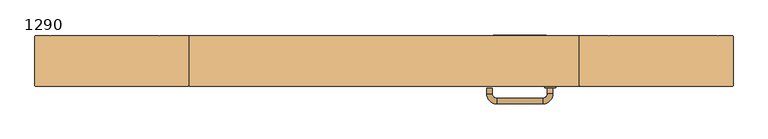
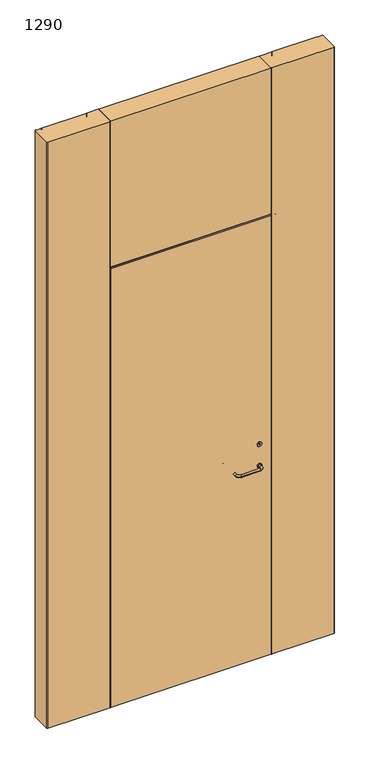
"""IFC4 building model written with IfcOpenShell, lengths in millimetres: door geometry, GLASSLINE_DÖRR FRAMLESS : 1290."""

from ifc_helpers import new_model, si_unit, point, frame, frame_2d, origin, origin_with_axes, place, context, project, spatial, polyline, circle_curve, ellipse_curve, trimmed, segment, composite_curve, outline, extrude, source, transform, mapped, element, save
from ifc_brep_helpers import plane_surface, cylinder_surface, revolved_surface, advanced_brep


def door_1290_8cabc72d(model_context):
    return source(origin(), model_context, "Body", "SolidModel", [
        extrude(outline(composite_curve([segment(trimmed(circle_curve(frame_2d((900.0, 302.0)), 10.0), [point((900.0, 292.0))], [point((900.0, 312.0))], False, "CARTESIAN"), True, "CONTINUOUS"), segment(trimmed(circle_curve(frame_2d((900.0, 302.0)), 10.0), [point((900.0, 312.0))], [point((900.0, 292.0))], False, "CARTESIAN"), True, "CONTINUOUS")], self_intersect=False)), frame((0.0, 62.0, 0.0), z_axis=(0.0, 1.0, 0.0), x_axis=(0.0, 0.0, 1.0)), (0.0, 0.0, 1.0), 2.38),
        extrude(outline(composite_curve([segment(trimmed(circle_curve(frame_2d((1000.0, 302.0)), 10.0), [point((1000.0, 292.0))], [point((1000.0, 312.0))], False, "CARTESIAN"), True, "CONTINUOUS"), segment(trimmed(circle_curve(frame_2d((1000.0, 302.0)), 10.0), [point((1000.0, 312.0))], [point((1000.0, 292.0))], False, "CARTESIAN"), True, "CONTINUOUS")], self_intersect=False), holes=[composite_curve([segment(polyline([(996.4131759, 301.4924039), (1000.5884951, 301.4924039)]), True, "CONTINUOUS"), segment(trimmed(circle_curve(frame_2d((1002.0, 302.0)), 1.5), [point((1000.5884951, 301.4924039))], [point((1000.5831237, 302.4924039))], True, "CARTESIAN"), True, "CONTINUOUS"), segment(polyline([(1000.5831237, 302.4924039), (996.4131759, 302.4924039), (996.4131759, 301.4924039)]), True, "CONTINUOUS")], self_intersect=False)]), frame((0.0, 62.0, 0.0), z_axis=(0.0, 1.0, 0.0), x_axis=(0.0, 0.0, 1.0)), (0.0, 0.0, 1.0), 2.38),
        advanced_brep(
        [(297.0938626, 55.0002706, 900.0), (307.0938626, 55.0002706, 900.0), (297.0938626, 75.5002706, 900.0), (307.0938626, 75.5002706, 900.0), (289.0938626, 93.5002706, 900.0), (289.0938626, 83.5002706, 900.0), (205.0, 83.5002706, 900.0), (205.0, 93.5002706, 900.0), (187.0, 75.5002706, 900.0), (197.0, 75.5002706, 900.0), (197.0, 65.0002706, 900.0), (187.0, 65.0002706, 900.0)],
        [
            (0, 1, circle_curve(frame((302.0938626, 55.0002706, 900.0), z_axis=(0.0, -1.0, 0.0), x_axis=(-1.0, 0.0, 0.0)), 5.0)),
            (1, 0, circle_curve(frame((302.0938626, 55.0002706, 900.0), z_axis=(0.0, -1.0, 0.0), x_axis=(-1.0, 0.0, 0.0)), 5.0)),
            (0, 2),
            (2, 3, circle_curve(frame((302.0938626, 75.5002706, 900.0), z_axis=(0.0, -1.0, 0.0), x_axis=(-1.0, 0.0, 0.0)), 5.0)),
            (3, 1),
            (3, 2, circle_curve(frame((302.0938626, 75.5002706, 900.0), z_axis=(0.0, -1.0, 0.0), x_axis=(-1.0, 0.0, 0.0)), 5.0)),
            (4, 3, circle_curve(frame((289.0938626, 75.5002706, 900.0), z_axis=(0.0, 0.0, -1.0), x_axis=(1.0, 0.0, 0.0)), 18.0)),
            (2, 5, circle_curve(frame((289.0938626, 75.5002706, 900.0), z_axis=(0.0, 0.0, 1.0), x_axis=(1.0, 0.0, 0.0)), 8.0)),
            (5, 4, circle_curve(frame((289.0938626, 88.5002706, 900.0), z_axis=(1.0, 0.0, 0.0), x_axis=(0.0, -1.0, 0.0)), 5.0)),
            (4, 5, circle_curve(frame((289.0938626, 88.5002706, 900.0), z_axis=(1.0, 0.0, 0.0), x_axis=(0.0, -1.0, 0.0)), 5.0)),
            (5, 6),
            (6, 7, circle_curve(frame((205.0, 88.5002706, 900.0), z_axis=(1.0, 0.0, 0.0), x_axis=(0.0, -1.0, 0.0)), 5.0)),
            (7, 4),
            (7, 6, circle_curve(frame((205.0, 88.5002706, 900.0), z_axis=(1.0, 0.0, 0.0), x_axis=(0.0, -1.0, 0.0)), 5.0)),
            (8, 7, circle_curve(frame((205.0, 75.5002706, 900.0), z_axis=(0.0, 0.0, -1.0), x_axis=(0.0, 1.0, 0.0)), 18.0)),
            (6, 9, circle_curve(frame((205.0, 75.5002706, 900.0), z_axis=(0.0, 0.0, 1.0), x_axis=(0.0, 1.0, 0.0)), 8.0)),
            (9, 8, circle_curve(frame((192.0, 75.5002706, 900.0), z_axis=(0.0, 1.0, 0.0), x_axis=(1.0, 0.0, 0.0)), 5.0)),
            (8, 9, circle_curve(frame((192.0, 75.5002706, 900.0), z_axis=(0.0, 1.0, 0.0), x_axis=(1.0, 0.0, 0.0)), 5.0)),
            (10, 11, circle_curve(frame((192.0, 65.0002706, 900.0), z_axis=(0.0, -1.0, 0.0), x_axis=(1.0, 0.0, 0.0)), 5.0)),
            (11, 10, circle_curve(frame((192.0, 65.0002706, 900.0), z_axis=(0.0, -1.0, 0.0), x_axis=(1.0, 0.0, 0.0)), 5.0)),
            (9, 10),
            (11, 8),
        ],
        [
            plane_surface(frame((302.0938626, 55.0002706, 0.0), z_axis=(0.0, -1.0, 0.0), x_axis=(0.0, 0.0, 1.0))),
            cylinder_surface(frame((302.0938626, 55.0002706, 900.0), z_axis=(0.0, -1.0, 0.0), x_axis=(-1.0, 0.0, 0.0)), 5.0),
            revolved_surface(trimmed(ellipse_curve(frame((302.0938626, 75.5002706, 900.0), z_axis=(0.0, -1.0, 0.0), x_axis=(-1.0, 0.0, 0.0)), 5.0, 5.0), [point((297.0938626, 75.5002706, 900.0))], [point((307.0938626, 75.5002706, 900.0))], True, "CARTESIAN"), (289.0938626, 75.5002706, 0.0), (0.0, 0.0, 1.0)),
            revolved_surface(trimmed(ellipse_curve(frame((302.0938626, 75.5002706, 900.0), z_axis=(0.0, -1.0, 0.0), x_axis=(-1.0, 0.0, 0.0)), 5.0, 5.0), [point((307.0938626, 75.5002706, 900.0))], [point((297.0938626, 75.5002706, 900.0))], True, "CARTESIAN"), (289.0938626, 75.5002706, 0.0), (0.0, 0.0, 1.0)),
            cylinder_surface(frame((289.0938626, 88.5002706, 900.0), z_axis=(1.0, 0.0, 0.0), x_axis=(0.0, -1.0, 0.0)), 5.0),
            revolved_surface(trimmed(ellipse_curve(frame((205.0, 88.5002706, 900.0), z_axis=(1.0, 0.0, 0.0), x_axis=(0.0, -1.0, 0.0)), 5.0, 5.0), [point((205.0, 83.5002706, 900.0))], [point((205.0, 93.5002706, 900.0))], True, "CARTESIAN"), (205.0, 75.5002706, 0.0), (0.0, 0.0, 1.0)),
            revolved_surface(trimmed(ellipse_curve(frame((205.0, 88.5002706, 900.0), z_axis=(1.0, 0.0, 0.0), x_axis=(0.0, -1.0, 0.0)), 5.0, 5.0), [point((205.0, 93.5002706, 900.0))], [point((205.0, 83.5002706, 900.0))], True, "CARTESIAN"), (205.0, 75.5002706, 0.0), (0.0, 0.0, 1.0)),
            plane_surface(frame((192.0, 65.0002706, 0.0), z_axis=(0.0, -1.0, 0.0), x_axis=(0.0, 0.0, 1.0))),
            cylinder_surface(frame((192.0, 75.5002706, 900.0), z_axis=(0.0, 1.0, 0.0), x_axis=(1.0, 0.0, 0.0)), 5.0),
        ],
        [
            (0, [[1, 2]]),
            (1, [[-1, 3, 4, 5]]),
            (1, [[-2, -5, 6, -3]]),
            (2, [[7, -4, 8, 9]]),
            (3, [[-8, -6, -7, 10]]),
            (4, [[-9, 11, 12, 13]]),
            (4, [[-10, -13, 14, -11]]),
            (5, [[15, -12, 16, 17]]),
            (6, [[-16, -14, -15, 18]]),
            (7, [[19, 20]]),
            (8, [[-17, 21, -20, 22]]),
            (8, [[-18, -22, -19, -21]]),
        ],
    ),
        advanced_brep(
        [(-355.5, 92.0, 2735.0), (-407.0027651, 92.0, 2735.0), (-409.0027651, 90.0, 2735.0), (-411.0027651, 92.0, 2735.0), (-605.0, 92.0, 2735.0), (-607.0, 90.0, 2735.0), (-609.0, 92.0, 2735.0), (-633.0, 92.0, 2735.0), (-635.0, 90.0, 2735.0), (-635.0, 2.0, 2735.0), (-633.0, 0.0, 2735.0), (-357.5, 0.0, 2735.0), (-355.5, 2.0, 2735.0), (-355.5, 2.0, 0.0), (-357.5, 0.0, 0.0), (-633.0, 0.0, 0.0), (-635.0, 2.0, 0.0), (-635.0, 90.0, 0.0), (-633.0, 92.0, 0.0), (-609.0, 92.0, 0.0), (-607.0, 90.0, 0.0), (-605.0, 92.0, 0.0), (-411.0027651, 92.0, 0.0), (-409.0027651, 90.0, 0.0), (-409.0027651, 80.0, 0.0), (-405.0, 80.0, 0.0), (-405.0, 12.0, 0.0), (-355.5, 12.0, 0.0), (-355.5, 12.0, 2104.0027651), (-355.5, 92.0, 2104.0027651), (-405.0, 12.0, 2104.0027651), (-405.0, 80.0, 2104.0027651), (-409.0027651, 80.0, 2104.0027651), (-409.0027651, 90.0, 2104.0027651), (-407.0027651, 92.0, 2104.0027651)],
        [
            (0, 1),
            (1, 2, circle_curve(frame((-407.0027651, 90.0, 2735.0), z_axis=(0.0, 0.0, 1.0), x_axis=(0.0, 1.0, 0.0)), 2.0)),
            (2, 3, circle_curve(frame((-411.0027651, 90.0, 2735.0), z_axis=(0.0, 0.0, 1.0), x_axis=(0.0, -1.0, 0.0)), 2.0)),
            (3, 4),
            (4, 5, circle_curve(frame((-605.0, 90.0, 2735.0), z_axis=(0.0, 0.0, 1.0), x_axis=(0.0, -1.0, 0.0)), 2.0)),
            (5, 6, circle_curve(frame((-609.0, 90.0, 2735.0), z_axis=(0.0, 0.0, 1.0), x_axis=(0.0, -1.0, 0.0)), 2.0)),
            (6, 7),
            (7, 8, circle_curve(frame((-633.0, 90.0, 2735.0), z_axis=(0.0, 0.0, 1.0), x_axis=(0.0, -1.0, 0.0)), 2.0)),
            (8, 9),
            (9, 10, circle_curve(frame((-633.0, 2.0, 2735.0), z_axis=(0.0, 0.0, 1.0), x_axis=(0.0, -1.0, 0.0)), 2.0)),
            (10, 11),
            (11, 12, circle_curve(frame((-357.5, 2.0, 2735.0), z_axis=(0.0, 0.0, 1.0), x_axis=(0.0, -1.0, 0.0)), 2.0)),
            (12, 0),
            (13, 14, circle_curve(frame((-357.5, 2.0, 0.0), z_axis=(0.0, 0.0, -1.0), x_axis=(0.0, -1.0, 0.0)), 2.0)),
            (14, 15),
            (15, 16, circle_curve(frame((-633.0, 2.0, 0.0), z_axis=(0.0, 0.0, -1.0), x_axis=(0.0, -1.0, 0.0)), 2.0)),
            (16, 17),
            (17, 18, circle_curve(frame((-633.0, 90.0, 0.0), z_axis=(0.0, 0.0, -1.0), x_axis=(0.0, -1.0, 0.0)), 2.0)),
            (18, 19),
            (19, 20, circle_curve(frame((-609.0, 90.0, 0.0), z_axis=(0.0, 0.0, -1.0), x_axis=(0.0, -1.0, 0.0)), 2.0)),
            (20, 21, circle_curve(frame((-605.0, 90.0, 0.0), z_axis=(0.0, 0.0, -1.0), x_axis=(0.0, -1.0, 0.0)), 2.0)),
            (21, 22),
            (22, 23, circle_curve(frame((-411.0027651, 90.0, 0.0), z_axis=(0.0, 0.0, -1.0), x_axis=(0.0, -1.0, 0.0)), 2.0)),
            (23, 24),
            (24, 25),
            (25, 26),
            (26, 27),
            (27, 13),
            (12, 13),
            (27, 28),
            (28, 29),
            (29, 0),
            (26, 30),
            (30, 28),
            (25, 31),
            (31, 30),
            (24, 32),
            (32, 31),
            (23, 33),
            (33, 32),
            (2, 33),
            (22, 3),
            (21, 4),
            (8, 17),
            (16, 9),
            (15, 10),
            (14, 11),
            (7, 18),
            (20, 5),
            (19, 6),
            (33, 34, circle_curve(frame((-407.0027651, 90.0, 2104.0027651), z_axis=(0.0, 0.0, -1.0), x_axis=(0.0, 1.0, 0.0)), 2.0)),
            (34, 29),
            (1, 34),
        ],
        [
            plane_surface(frame((-355.5, 12.0, 2735.0), z_axis=(0.0, 0.0, 1.0), x_axis=(0.0, 1.0, 0.0))),
            plane_surface(frame((-355.5, 12.0, 0.0), z_axis=(0.0, 0.0, -1.0), x_axis=(0.0, -1.0, 0.0))),
            plane_surface(frame((-355.5, 2.0, 2735.0), z_axis=(1.0, 0.0, 0.0), x_axis=(0.0, 0.0, -1.0))),
            plane_surface(frame((-355.5, 12.0, 2735.0), z_axis=(0.0, 1.0, 0.0), x_axis=(0.0, 0.0, -1.0))),
            plane_surface(frame((-405.0, 12.0, 2735.0), z_axis=(1.0, 0.0, 0.0), x_axis=(0.0, 0.0, -1.0))),
            plane_surface(frame((-405.0, 80.0, 2735.0), z_axis=(0.0, 1.0, 0.0), x_axis=(0.0, 0.0, -1.0))),
            plane_surface(frame((-409.0027651, 80.0, 2735.0), z_axis=(1.0, 0.0, 0.0), x_axis=(0.0, 0.0, -1.0))),
            cylinder_surface(frame((-411.0027651, 90.0, 0.0), z_axis=(0.0, 0.0, 1.0), x_axis=(0.0, -1.0, 0.0)), 2.0),
            plane_surface(frame((-411.0027651, 92.0, 2735.0), z_axis=(0.0, 1.0, 0.0), x_axis=(0.0, 0.0, -1.0))),
            plane_surface(frame((-635.0, 90.0, 2735.0), z_axis=(-1.0, 0.0, 0.0), x_axis=(0.0, 0.0, -1.0))),
            cylinder_surface(frame((-633.0, 2.0, 0.0), z_axis=(0.0, 0.0, 1.0), x_axis=(0.0, -1.0, 0.0)), 2.0),
            plane_surface(frame((-633.0, 0.0, 2735.0), z_axis=(0.0, -1.0, 0.0), x_axis=(0.0, 0.0, -1.0))),
            cylinder_surface(frame((-357.5, 2.0, 0.0), z_axis=(0.0, 0.0, 1.0), x_axis=(0.0, -1.0, 0.0)), 2.0),
            cylinder_surface(frame((-633.0, 90.0, 0.0), z_axis=(0.0, 0.0, 1.0), x_axis=(0.0, -1.0, 0.0)), 2.0),
            cylinder_surface(frame((-605.0, 90.0, 0.0), z_axis=(0.0, 0.0, 1.0), x_axis=(0.0, -1.0, 0.0)), 2.0),
            cylinder_surface(frame((-609.0, 90.0, 0.0), z_axis=(0.0, 0.0, 1.0), x_axis=(0.0, -1.0, 0.0)), 2.0),
            plane_surface(frame((-609.0, 92.0, 2735.0), z_axis=(0.0, 1.0, 0.0), x_axis=(0.0, 0.0, -1.0))),
            plane_surface(frame((-409.0027651, 90.0, 2104.0027651), z_axis=(0.0, 0.0, -1.0), x_axis=(0.0, 1.0, 0.0))),
            cylinder_surface(frame((-407.0027651, 90.0, 2735.0), z_axis=(0.0, 0.0, -1.0), x_axis=(0.0, 1.0, 0.0)), 2.0),
            plane_surface(frame((-407.0027651, 92.0, 2104.0027651), z_axis=(0.0, 1.0, 0.0), x_axis=(0.0, 0.0, 1.0))),
        ],
        [
            (0, [[1, 2, 3, 4, 5, 6, 7, 8, 9, 10, 11, 12, 13]]),
            (1, [[14, 15, 16, 17, 18, 19, 20, 21, 22, 23, 24, 25, 26, 27, 28]]),
            (2, [[-13, 29, -28, 30, 31, 32]]),
            (3, [[-27, 33, 34, -30]]),
            (4, [[-26, 35, 36, -33]]),
            (5, [[-25, 37, 38, -35]]),
            (6, [[-24, 39, 40, -37]]),
            (7, [[-3, 41, -39, -23, 42]]),
            (8, [[-4, -42, -22, 43]]),
            (9, [[-9, 44, -17, 45]]),
            (10, [[-10, -45, -16, 46]]),
            (11, [[-11, -46, -15, 47]]),
            (12, [[-12, -47, -14, -29]]),
            (13, [[-8, 48, -18, -44]]),
            (14, [[-5, -43, -21, 49]]),
            (15, [[-6, -49, -20, 50]]),
            (16, [[-7, -50, -19, -48]]),
            (17, [[51, 52, -31, -34, -36, -38, -40]]),
            (18, [[-51, -41, -2, 53]]),
            (19, [[-52, -53, -1, -32]]),
        ],
    ),
        advanced_brep(
        [(355.5, 2.0, 2735.0), (357.5, 0.0, 2735.0), (633.0, 0.0, 2735.0), (635.0, 2.0, 2735.0), (635.0, 90.0, 2735.0), (633.0, 92.0, 2735.0), (609.0, 92.0, 2735.0), (607.0, 90.0, 2735.0), (605.0, 92.0, 2735.0), (411.0027651, 92.0, 2735.0), (409.0027651, 90.0, 2735.0), (407.0027651, 92.0, 2735.0), (355.5, 92.0, 2735.0), (355.5, 2.0, 0.0), (355.5, 12.0, 0.0), (405.0, 12.0, 0.0), (405.0, 80.0, 0.0), (409.0027651, 80.0, 0.0), (409.0027651, 90.0, 0.0), (411.0027651, 92.0, 0.0), (605.0, 92.0, 0.0), (607.0, 90.0, 0.0), (609.0, 92.0, 0.0), (633.0, 92.0, 0.0), (635.0, 90.0, 0.0), (635.0, 2.0, 0.0), (633.0, 0.0, 0.0), (357.5, 0.0, 0.0), (355.5, 92.0, 2104.0027651), (355.5, 12.0, 2104.0027651), (405.0, 12.0, 2104.0027651), (405.0, 80.0, 2104.0027651), (409.0027651, 80.0, 2104.0027651), (409.0027651, 90.0, 2104.0027651), (407.0027651, 92.0, 2104.0027651)],
        [
            (0, 1, circle_curve(frame((357.5, 2.0, 2735.0), z_axis=(0.0, 0.0, 1.0), x_axis=(0.0, -1.0, 0.0)), 2.0)),
            (1, 2),
            (2, 3, circle_curve(frame((633.0, 2.0, 2735.0), z_axis=(0.0, 0.0, 1.0), x_axis=(0.0, -1.0, 0.0)), 2.0)),
            (3, 4),
            (4, 5, circle_curve(frame((633.0, 90.0, 2735.0), z_axis=(0.0, 0.0, 1.0), x_axis=(0.0, -1.0, 0.0)), 2.0)),
            (5, 6),
            (6, 7, circle_curve(frame((609.0, 90.0, 2735.0), z_axis=(0.0, 0.0, 1.0), x_axis=(0.0, -1.0, 0.0)), 2.0)),
            (7, 8, circle_curve(frame((605.0, 90.0, 2735.0), z_axis=(0.0, 0.0, 1.0), x_axis=(0.0, -1.0, 0.0)), 2.0)),
            (8, 9),
            (9, 10, circle_curve(frame((411.0027651, 90.0, 2735.0), z_axis=(0.0, 0.0, 1.0), x_axis=(0.0, -1.0, 0.0)), 2.0)),
            (10, 11, circle_curve(frame((407.0027651, 90.0, 2735.0), z_axis=(0.0, 0.0, 1.0), x_axis=(0.0, -1.0, 0.0)), 2.0)),
            (11, 12),
            (12, 0),
            (13, 14),
            (14, 15),
            (15, 16),
            (16, 17),
            (17, 18),
            (18, 19, circle_curve(frame((411.0027651, 90.0, 0.0), z_axis=(0.0, 0.0, -1.0), x_axis=(0.0, -1.0, 0.0)), 2.0)),
            (19, 20),
            (20, 21, circle_curve(frame((605.0, 90.0, 0.0), z_axis=(0.0, 0.0, -1.0), x_axis=(0.0, -1.0, 0.0)), 2.0)),
            (21, 22, circle_curve(frame((609.0, 90.0, 0.0), z_axis=(0.0, 0.0, -1.0), x_axis=(0.0, -1.0, 0.0)), 2.0)),
            (22, 23),
            (23, 24, circle_curve(frame((633.0, 90.0, 0.0), z_axis=(0.0, 0.0, -1.0), x_axis=(0.0, -1.0, 0.0)), 2.0)),
            (24, 25),
            (25, 26, circle_curve(frame((633.0, 2.0, 0.0), z_axis=(0.0, 0.0, -1.0), x_axis=(0.0, -1.0, 0.0)), 2.0)),
            (26, 27),
            (27, 13, circle_curve(frame((357.5, 2.0, 0.0), z_axis=(0.0, 0.0, -1.0), x_axis=(0.0, -1.0, 0.0)), 2.0)),
            (12, 28),
            (28, 29),
            (29, 14),
            (13, 0),
            (29, 30),
            (30, 15),
            (30, 31),
            (31, 16),
            (31, 32),
            (32, 17),
            (32, 33),
            (33, 18),
            (9, 19),
            (33, 10),
            (8, 20),
            (3, 25),
            (24, 4),
            (2, 26),
            (1, 27),
            (23, 5),
            (7, 21),
            (6, 22),
            (28, 34),
            (34, 33, circle_curve(frame((407.0027651, 90.0, 2104.0027651), z_axis=(0.0, 0.0, -1.0), x_axis=(0.0, -1.0, 0.0)), 2.0)),
            (11, 34),
        ],
        [
            plane_surface(frame((357.5, 0.0, 2735.0), z_axis=(0.0, 0.0, 1.0), x_axis=(1.0, 0.0, 0.0))),
            plane_surface(frame((357.5, 0.0, 0.0), z_axis=(0.0, 0.0, -1.0), x_axis=(-1.0, 0.0, 0.0))),
            plane_surface(frame((355.5, 12.0, 2735.0), z_axis=(-1.0, 0.0, 0.0), x_axis=(0.0, 0.0, -1.0))),
            plane_surface(frame((405.0, 12.0, 2735.0), z_axis=(0.0, 1.0, 0.0), x_axis=(0.0, 0.0, -1.0))),
            plane_surface(frame((405.0, 80.0, 2735.0), z_axis=(-1.0, 0.0, 0.0), x_axis=(0.0, 0.0, -1.0))),
            plane_surface(frame((409.0027651, 80.0, 2735.0), z_axis=(0.0, 1.0, 0.0), x_axis=(0.0, 0.0, -1.0))),
            plane_surface(frame((409.0027651, 90.0, 2735.0), z_axis=(-1.0, 0.0, 0.0), x_axis=(0.0, 0.0, -1.0))),
            cylinder_surface(frame((411.0027651, 90.0, 0.0), z_axis=(0.0, 0.0, 1.0), x_axis=(0.0, -1.0, 0.0)), 2.0),
            plane_surface(frame((605.0, 92.0, 2735.0), z_axis=(0.0, 1.0, 0.0), x_axis=(0.0, 0.0, -1.0))),
            plane_surface(frame((635.0, 2.0, 2735.0), z_axis=(1.0, 0.0, 0.0), x_axis=(0.0, 0.0, -1.0))),
            cylinder_surface(frame((633.0, 2.0, 0.0), z_axis=(0.0, 0.0, 1.0), x_axis=(0.0, -1.0, 0.0)), 2.0),
            plane_surface(frame((357.5, 0.0, 2735.0), z_axis=(0.0, -1.0, 0.0), x_axis=(0.0, 0.0, -1.0))),
            cylinder_surface(frame((357.5, 2.0, 0.0), z_axis=(0.0, 0.0, 1.0), x_axis=(0.0, -1.0, 0.0)), 2.0),
            cylinder_surface(frame((633.0, 90.0, 0.0), z_axis=(0.0, 0.0, 1.0), x_axis=(0.0, -1.0, 0.0)), 2.0),
            cylinder_surface(frame((605.0, 90.0, 0.0), z_axis=(0.0, 0.0, 1.0), x_axis=(0.0, -1.0, 0.0)), 2.0),
            cylinder_surface(frame((609.0, 90.0, 0.0), z_axis=(0.0, 0.0, 1.0), x_axis=(0.0, -1.0, 0.0)), 2.0),
            plane_surface(frame((633.0, 92.0, 2735.0), z_axis=(0.0, 1.0, 0.0), x_axis=(0.0, 0.0, -1.0))),
            plane_surface(frame((409.0027651, 80.0, 2104.0027651), z_axis=(0.0, 0.0, -1.0), x_axis=(-1.0, 0.0, 0.0))),
            plane_surface(frame((355.5, 92.0, 2104.0027651), z_axis=(0.0, 1.0, 0.0), x_axis=(0.0, 0.0, 1.0))),
            cylinder_surface(frame((407.0027651, 90.0, 2735.0), z_axis=(0.0, 0.0, -1.0), x_axis=(0.0, -1.0, 0.0)), 2.0),
        ],
        [
            (0, [[1, 2, 3, 4, 5, 6, 7, 8, 9, 10, 11, 12, 13]]),
            (1, [[14, 15, 16, 17, 18, 19, 20, 21, 22, 23, 24, 25, 26, 27, 28]]),
            (2, [[-13, 29, 30, 31, -14, 32]]),
            (3, [[-15, -31, 33, 34]]),
            (4, [[-16, -34, 35, 36]]),
            (5, [[-17, -36, 37, 38]]),
            (6, [[-18, -38, 39, 40]]),
            (7, [[-10, 41, -19, -40, 42]]),
            (8, [[-9, 43, -20, -41]]),
            (9, [[-4, 44, -25, 45]]),
            (10, [[-3, 46, -26, -44]]),
            (11, [[-2, 47, -27, -46]]),
            (12, [[-1, -32, -28, -47]]),
            (13, [[-5, -45, -24, 48]]),
            (14, [[-8, 49, -21, -43]]),
            (15, [[-7, 50, -22, -49]]),
            (16, [[-6, -48, -23, -50]]),
            (17, [[-30, 51, 52, -39, -37, -35, -33]]),
            (18, [[-51, -29, -12, 53]]),
            (19, [[-52, -53, -11, -42]]),
        ],
    ),
        extrude(outline(composite_curve([segment(polyline([(80.0, 2100.0), (12.0, 2100.0), (12.0, 2052.0), (2.0, 2052.0)]), True, "CONTINUOUS"), segment(trimmed(circle_curve(frame_2d((2.0, 2054.0)), 2.0), [point((2.0, 2052.0))], [point((0.0, 2054.0))], False, "CARTESIAN"), True, "CONTINUOUS"), segment(polyline([(0.0, 2054.0), (0.0, 2735.0), (91.9618562, 2735.0), (91.9618562, 2106.0027651)]), True, "CONTINUOUS"), segment(trimmed(circle_curve(frame_2d((89.9618562, 2106.0027651)), 2.0), [point((91.9618562, 2106.0027651))], [point((89.9618562, 2104.0027651))], False, "CARTESIAN"), True, "CONTINUOUS"), segment(polyline([(89.9618562, 2104.0027651), (80.0, 2104.0027651), (80.0, 2100.0)]), True, "CONTINUOUS")], self_intersect=False)), frame((-354.0, 0.0, 0.0), z_axis=(1.0, 0.0, 0.0), x_axis=(0.0, 1.0, 0.0)), (0.0, 0.0, 1.0), 708.0),
        extrude(outline(composite_curve([segment(polyline([(-354.0, 2.0), (-354.0, 23.5), (-350.0, 23.5), (-350.0, 25.0), (-364.0, 25.0), (-364.0, 31.5), (-362.0, 31.5), (-362.0, 60.0)]), True, "CONTINUOUS"), segment(trimmed(circle_curve(frame_2d((-360.0, 60.0)), 2.0), [point((-362.0, 60.0))], [point((-360.0, 62.0))], False, "CARTESIAN"), True, "CONTINUOUS"), segment(polyline([(-360.0, 62.0), (380.0, 62.0)]), True, "CONTINUOUS"), segment(trimmed(circle_curve(frame_2d((380.0, 60.0)), 2.0), [point((380.0, 62.0))], [point((382.0, 60.0))], False, "CARTESIAN"), True, "CONTINUOUS"), segment(polyline([(382.0, 60.0), (382.0, 30.0), (384.0, 30.0), (384.0, 25.0), (370.0, 25.0), (370.0, 23.5), (374.0, 23.5), (374.0, 2.0)]), True, "CONTINUOUS"), segment(trimmed(circle_curve(frame_2d((372.0, 2.0)), 2.0), [point((374.0, 2.0))], [point((372.0, 0.0))], False, "CARTESIAN"), True, "CONTINUOUS"), segment(polyline([(372.0, 0.0), (-352.0, 0.0)]), True, "CONTINUOUS"), segment(trimmed(circle_curve(frame_2d((-352.0, 2.0)), 2.0), [point((-352.0, 0.0))], [point((-354.0, 2.0))], False, "CARTESIAN"), True, "CONTINUOUS")], self_intersect=False)), origin_with_axes(), (0.0, 0.0, 1.0), 2048.0),
        advanced_brep(
        [(405.0, 12.0, 0.0), (357.0, 12.0, 0.0), (357.0, 22.0, 0.0), (369.0, 22.0, 0.0), (369.0, 50.0, 0.0), (371.0, 52.0, 0.0), (379.0, 52.0, 0.0), (379.0, 90.0, 0.0), (381.0, 92.0, 0.0), (407.0027651, 92.0, 0.0), (409.0027651, 90.0, 0.0), (409.0027651, 80.0, 0.0), (405.0, 80.0, 0.0), (405.0, 12.0, 2100.0), (-405.0, 12.0, 2100.0), (-405.0, 12.0, 0.0), (-357.0, 12.0, 0.0), (-357.0, 12.0, 2052.0), (357.0, 12.0, 2052.0), (357.0, 22.0, 2052.0), (-357.0, 22.0, 2052.0), (-357.0, 22.0, 0.0), (-369.0, 22.0, 0.0), (-369.0, 22.0, 2064.0), (369.0, 22.0, 2064.0), (371.0, 52.0, 2066.0), (-371.0, 52.0, 2066.0), (-371.0, 52.0, 0.0), (-379.0, 52.0, 0.0), (-379.0, 52.0, 2074.0), (379.0, 52.0, 2074.0), (379.0, 90.0, 2074.0), (381.0, 92.0, 2076.0), (-381.0, 92.0, 2076.0), (-381.0, 92.0, 0.0), (-407.0027651, 92.0, 0.0), (-407.0027651, 92.0, 2102.0027651), (407.0027651, 92.0, 2102.0027651), (409.0027651, 90.0, 2104.0027651), (409.0027651, 80.0, 2104.0027651), (-409.0027651, 80.0, 2104.0027651), (-409.0027651, 80.0, 0.0), (-405.0, 80.0, 0.0), (-405.0, 80.0, 2100.0), (405.0, 80.0, 2100.0), (-379.0, 90.0, 2074.0), (-409.0027651, 90.0, 2104.0027651), (-409.0027651, 90.0, 0.0), (-379.0, 90.0, 0.0), (-369.0, 50.0, 0.0), (369.0, 50.0, 2064.0), (-369.0, 50.0, 2064.0)],
        [
            (0, 1),
            (1, 2),
            (2, 3),
            (3, 4),
            (4, 5, circle_curve(frame((371.0, 50.0, 0.0), z_axis=(0.0, 0.0, -1.0), x_axis=(-1.0, 0.0, 0.0)), 2.0)),
            (5, 6),
            (6, 7),
            (7, 8, circle_curve(frame((381.0, 90.0, 0.0), z_axis=(0.0, 0.0, -1.0), x_axis=(-1.0, 0.0, 0.0)), 2.0)),
            (8, 9),
            (9, 10, circle_curve(frame((407.0027651, 90.0, 0.0), z_axis=(0.0, 0.0, -1.0), x_axis=(-1.0, 0.0, 0.0)), 2.0)),
            (10, 11),
            (11, 12),
            (12, 0),
            (0, 13),
            (13, 14),
            (14, 15),
            (15, 16),
            (16, 17),
            (17, 18),
            (18, 1),
            (18, 19),
            (19, 2),
            (19, 20),
            (20, 21),
            (21, 22),
            (22, 23),
            (23, 24),
            (24, 3),
            (5, 25),
            (25, 26),
            (26, 27),
            (27, 28),
            (28, 29),
            (29, 30),
            (30, 6),
            (30, 31),
            (31, 7),
            (31, 32, ellipse_curve(frame((381.0, 90.0, 2076.0), z_axis=(0.7071067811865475, 0.0, -0.7071067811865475), x_axis=(-0.7071067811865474, 0.0, -0.7071067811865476)), 2.8284271, 2.0)),
            (32, 8),
            (32, 33),
            (33, 34),
            (34, 35),
            (35, 36),
            (36, 37),
            (37, 9),
            (37, 38, ellipse_curve(frame((407.0027651, 90.0, 2102.0027651), z_axis=(0.7071067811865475, 0.0, -0.7071067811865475), x_axis=(-0.7071067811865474, 0.0, -0.7071067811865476)), 2.8284271, 2.0)),
            (38, 10),
            (38, 39),
            (39, 11),
            (39, 40),
            (40, 41),
            (41, 42),
            (42, 43),
            (43, 44),
            (44, 12),
            (44, 13),
            (17, 20),
            (29, 45),
            (45, 31),
            (45, 33, ellipse_curve(frame((-381.0, 90.0, 2076.0), z_axis=(0.7071067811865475, 0.0, 0.7071067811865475), x_axis=(0.7071067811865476, 0.0, -0.7071067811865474)), 2.8284271, 2.0)),
            (36, 46, ellipse_curve(frame((-407.0027651, 90.0, 2102.0027651), z_axis=(0.7071067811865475, 0.0, 0.7071067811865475), x_axis=(0.7071067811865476, 0.0, -0.7071067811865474)), 2.8284271, 2.0)),
            (46, 38),
            (46, 40),
            (43, 14),
            (15, 42),
            (41, 47),
            (47, 35, circle_curve(frame((-407.0027651, 90.0, 0.0), z_axis=(0.0, 0.0, -1.0), x_axis=(1.0, 0.0, 0.0)), 2.0)),
            (34, 48, circle_curve(frame((-381.0, 90.0, 0.0), z_axis=(0.0, 0.0, -1.0), x_axis=(1.0, 0.0, 0.0)), 2.0)),
            (48, 28),
            (27, 49, circle_curve(frame((-371.0, 50.0, 0.0), z_axis=(0.0, 0.0, -1.0), x_axis=(1.0, 0.0, 0.0)), 2.0)),
            (49, 22),
            (21, 16),
            (48, 45),
            (47, 46),
            (24, 50),
            (50, 4),
            (50, 25, ellipse_curve(frame((371.0, 50.0, 2066.0), z_axis=(0.7071067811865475, 0.0, -0.7071067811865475), x_axis=(-0.7071067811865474, 0.0, -0.7071067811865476)), 2.8284271, 2.0)),
            (23, 51),
            (51, 50),
            (51, 26, ellipse_curve(frame((-371.0, 50.0, 2066.0), z_axis=(0.7071067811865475, 0.0, 0.7071067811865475), x_axis=(0.7071067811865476, 0.0, -0.7071067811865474)), 2.8284271, 2.0)),
            (49, 51),
        ],
        [
            plane_surface(frame((405.0, 12.0, 0.0), z_axis=(0.0, 0.0, -1.0), x_axis=(0.0, -1.0, 0.0))),
            plane_surface(frame((405.0, 12.0, 0.0), z_axis=(0.0, -1.0, 0.0), x_axis=(0.0, 0.0, 1.0))),
            plane_surface(frame((357.0, 12.0, 0.0), z_axis=(-1.0, 0.0, 0.0), x_axis=(0.0, 0.0, 1.0))),
            plane_surface(frame((357.0, 22.0, 0.0), z_axis=(0.0, 1.0, 0.0), x_axis=(0.0, 0.0, 1.0))),
            plane_surface(frame((371.0, 52.0, 0.0), z_axis=(0.0, 1.0, 0.0), x_axis=(0.0, 0.0, 1.0))),
            plane_surface(frame((379.0, 52.0, 0.0), z_axis=(-1.0, 0.0, 0.0), x_axis=(0.0, 0.0, 1.0))),
            cylinder_surface(frame((381.0, 90.0, 0.0), z_axis=(0.0, 0.0, -1.0), x_axis=(-1.0, 0.0, 0.0)), 2.0),
            plane_surface(frame((381.0, 92.0, 0.0), z_axis=(0.0, 1.0, 0.0), x_axis=(0.0, 0.0, 1.0))),
            cylinder_surface(frame((407.0027651, 90.0, 0.0), z_axis=(0.0, 0.0, -1.0), x_axis=(-1.0, 0.0, 0.0)), 2.0),
            plane_surface(frame((409.0027651, 90.0, 0.0), z_axis=(1.0, 0.0, 0.0), x_axis=(0.0, 0.0, 1.0))),
            plane_surface(frame((409.0027651, 80.0, 0.0), z_axis=(0.0, -1.0, 0.0), x_axis=(0.0, 0.0, 1.0))),
            plane_surface(frame((405.0, 80.0, 0.0), z_axis=(1.0, 0.0, 0.0), x_axis=(0.0, 0.0, 1.0))),
            plane_surface(frame((357.0, 12.0, 2052.0), z_axis=(0.0, 0.0, -1.0), x_axis=(-1.0, 0.0, 0.0))),
            plane_surface(frame((379.0, 52.0, 2074.0), z_axis=(0.0, 0.0, -1.0), x_axis=(-1.0, 0.0, 0.0))),
            cylinder_surface(frame((405.0, 90.0, 2076.0), z_axis=(1.0, 0.0, 0.0), x_axis=(0.0, 0.0, -1.0)), 2.0),
            cylinder_surface(frame((405.0, 90.0, 2102.0027651), z_axis=(1.0, 0.0, 0.0), x_axis=(0.0, 0.0, -1.0)), 2.0),
            plane_surface(frame((409.0027651, 90.0, 2104.0027651), z_axis=(0.0, 0.0, 1.0), x_axis=(-1.0, 0.0, 0.0))),
            plane_surface(frame((405.0, 80.0, 2100.0), z_axis=(0.0, 0.0, 1.0), x_axis=(-1.0, 0.0, 0.0))),
            plane_surface(frame((-405.0, 12.0, 0.0), z_axis=(0.0, 0.0, -1.0), x_axis=(0.0, -1.0, 0.0))),
            plane_surface(frame((-357.0, 12.0, 2052.0), z_axis=(1.0, 0.0, 0.0), x_axis=(0.0, 0.0, -1.0))),
            plane_surface(frame((-379.0, 52.0, 2074.0), z_axis=(1.0, 0.0, 0.0), x_axis=(0.0, 0.0, -1.0))),
            cylinder_surface(frame((-381.0, 90.0, 2100.0), z_axis=(0.0, 0.0, 1.0), x_axis=(1.0, 0.0, 0.0)), 2.0),
            cylinder_surface(frame((-407.0027651, 90.0, 2100.0), z_axis=(0.0, 0.0, 1.0), x_axis=(1.0, 0.0, 0.0)), 2.0),
            plane_surface(frame((-409.0027651, 90.0, 2104.0027651), z_axis=(-1.0, 0.0, 0.0), x_axis=(0.0, 0.0, -1.0))),
            plane_surface(frame((-405.0, 80.0, 2100.0), z_axis=(-1.0, 0.0, 0.0), x_axis=(0.0, 0.0, -1.0))),
            plane_surface(frame((369.0, 22.0, 0.0), z_axis=(-1.0, 0.0, 0.0), x_axis=(0.0, 0.0, 1.0))),
            cylinder_surface(frame((371.0, 50.0, 0.0), z_axis=(0.0, 0.0, -1.0), x_axis=(-1.0, 0.0, 0.0)), 2.0),
            plane_surface(frame((369.0, 22.0, 2064.0), z_axis=(0.0, 0.0, -1.0), x_axis=(-1.0, 0.0, 0.0))),
            cylinder_surface(frame((405.0, 50.0, 2066.0), z_axis=(1.0, 0.0, 0.0), x_axis=(0.0, 0.0, -1.0)), 2.0),
            plane_surface(frame((-369.0, 22.0, 2064.0), z_axis=(1.0, 0.0, 0.0), x_axis=(0.0, 0.0, -1.0))),
            cylinder_surface(frame((-371.0, 50.0, 2100.0), z_axis=(0.0, 0.0, 1.0), x_axis=(1.0, 0.0, 0.0)), 2.0),
        ],
        [
            (0, [[1, 2, 3, 4, 5, 6, 7, 8, 9, 10, 11, 12, 13]]),
            (1, [[-1, 14, 15, 16, 17, 18, 19, 20]]),
            (2, [[-2, -20, 21, 22]]),
            (3, [[-3, -22, 23, 24, 25, 26, 27, 28]]),
            (4, [[-6, 29, 30, 31, 32, 33, 34, 35]]),
            (5, [[-7, -35, 36, 37]]),
            (6, [[-8, -37, 38, 39]]),
            (7, [[-9, -39, 40, 41, 42, 43, 44, 45]]),
            (8, [[-10, -45, 46, 47]]),
            (9, [[-11, -47, 48, 49]]),
            (10, [[-12, -49, 50, 51, 52, 53, 54, 55]]),
            (11, [[-13, -55, 56, -14]]),
            (12, [[-21, -19, 57, -23]]),
            (13, [[-36, -34, 58, 59]]),
            (14, [[-38, -59, 60, -40]]),
            (15, [[-46, -44, 61, 62]]),
            (16, [[-48, -62, 63, -50]]),
            (17, [[-56, -54, 64, -15]]),
            (18, [[65, -52, 66, 67, -42, 68, 69, -32, 70, 71, -25, 72, -17]]),
            (19, [[-57, -18, -72, -24]]),
            (20, [[-58, -33, -69, 73]]),
            (21, [[-60, -73, -68, -41]]),
            (22, [[-61, -43, -67, 74]]),
            (23, [[-63, -74, -66, -51]]),
            (24, [[-64, -53, -65, -16]]),
            (25, [[-4, -28, 75, 76]]),
            (26, [[-5, -76, 77, -29]]),
            (27, [[-75, -27, 78, 79]]),
            (28, [[-77, -79, 80, -30]]),
            (29, [[-78, -26, -71, 81]]),
            (30, [[-80, -81, -70, -31]]),
        ],
    ),
        advanced_brep(
        [(187.0, -2.9378647, 900.0), (197.0, -2.9378647, 900.0), (307.0, 7.0621353, 900.0), (297.0, 7.0621353, 900.0), (187.0, -13.4378647, 900.0), (197.0, -13.4378647, 900.0), (205.0, -21.4378647, 900.0), (205.0, -31.4378647, 900.0), (289.0, -31.4378647, 900.0), (289.0, -21.4378647, 900.0), (297.0, -13.4378647, 900.0), (307.0, -13.4378647, 900.0)],
        [
            (0, 1, circle_curve(frame((192.0, -2.9378647, 900.0), z_axis=(0.0, 1.0, 0.0), x_axis=(1.0, 0.0, 0.0)), 5.0)),
            (1, 0, circle_curve(frame((192.0, -2.9378647, 900.0), z_axis=(0.0, 1.0, 0.0), x_axis=(1.0, 0.0, 0.0)), 5.0)),
            (2, 3, circle_curve(frame((302.0, 7.0621353, 900.0), z_axis=(0.0, 1.0, 0.0), x_axis=(-1.0, 0.0, 0.0)), 5.0)),
            (3, 2, circle_curve(frame((302.0, 7.0621353, 900.0), z_axis=(0.0, 1.0, 0.0), x_axis=(-1.0, 0.0, 0.0)), 5.0)),
            (0, 4),
            (4, 5, circle_curve(frame((192.0, -13.4378647, 900.0), z_axis=(0.0, 1.0, 0.0), x_axis=(1.0, 0.0, 0.0)), 5.0)),
            (5, 1),
            (5, 4, circle_curve(frame((192.0, -13.4378647, 900.0), z_axis=(0.0, 1.0, 0.0), x_axis=(1.0, 0.0, 0.0)), 5.0)),
            (6, 5, circle_curve(frame((205.0, -13.4378647, 900.0), z_axis=(0.0, 0.0, -1.0), x_axis=(-1.0, 0.0, 0.0)), 8.0)),
            (4, 7, circle_curve(frame((205.0, -13.4378647, 900.0), z_axis=(0.0, 0.0, 1.0), x_axis=(-1.0, 0.0, 0.0)), 18.0)),
            (7, 6, circle_curve(frame((205.0, -26.4378647, 900.0), z_axis=(-1.0, 0.0, 0.0), x_axis=(0.0, 1.0, 0.0)), 5.0)),
            (6, 7, circle_curve(frame((205.0, -26.4378647, 900.0), z_axis=(-1.0, 0.0, 0.0), x_axis=(0.0, 1.0, 0.0)), 5.0)),
            (7, 8),
            (8, 9, circle_curve(frame((289.0, -26.4378647, 900.0), z_axis=(-1.0, 0.0, 0.0), x_axis=(0.0, 1.0, 0.0)), 5.0)),
            (9, 6),
            (9, 8, circle_curve(frame((289.0, -26.4378647, 900.0), z_axis=(-1.0, 0.0, 0.0), x_axis=(0.0, 1.0, 0.0)), 5.0)),
            (10, 9, circle_curve(frame((289.0, -13.4378647, 900.0), z_axis=(0.0, 0.0, -1.0), x_axis=(0.0, -1.0, 0.0)), 8.0)),
            (8, 11, circle_curve(frame((289.0, -13.4378647, 900.0), z_axis=(0.0, 0.0, 1.0), x_axis=(0.0, -1.0, 0.0)), 18.0)),
            (11, 10, circle_curve(frame((302.0, -13.4378647, 900.0), z_axis=(0.0, -1.0, 0.0), x_axis=(-1.0, 0.0, 0.0)), 5.0)),
            (10, 11, circle_curve(frame((302.0, -13.4378647, 900.0), z_axis=(0.0, -1.0, 0.0), x_axis=(-1.0, 0.0, 0.0)), 5.0)),
            (11, 2),
            (3, 10),
        ],
        [
            plane_surface(frame((192.0, -2.9378647, 0.0), z_axis=(0.0, 1.0, 0.0), x_axis=(0.0, 0.0, 1.0))),
            plane_surface(frame((302.0, 7.0621353, 0.0), z_axis=(0.0, 1.0, 0.0), x_axis=(0.0, 0.0, 1.0))),
            cylinder_surface(frame((192.0, -2.9378647, 900.0), z_axis=(0.0, 1.0, 0.0), x_axis=(1.0, 0.0, 0.0)), 5.0),
            revolved_surface(trimmed(ellipse_curve(frame((192.0, -13.4378647, 900.0), z_axis=(0.0, 1.0, 0.0), x_axis=(1.0, 0.0, 0.0)), 5.0, 5.0), [point((187.0, -13.4378647, 900.0))], [point((197.0, -13.4378647, 900.0))], True, "CARTESIAN"), (205.0, -13.4378647, 0.0), (0.0, 0.0, 1.0)),
            revolved_surface(trimmed(ellipse_curve(frame((192.0, -13.4378647, 900.0), z_axis=(0.0, 1.0, 0.0), x_axis=(1.0, 0.0, 0.0)), 5.0, 5.0), [point((197.0, -13.4378647, 900.0))], [point((187.0, -13.4378647, 900.0))], True, "CARTESIAN"), (205.0, -13.4378647, 0.0), (0.0, 0.0, 1.0)),
            cylinder_surface(frame((205.0, -26.4378647, 900.0), z_axis=(-1.0, 0.0, 0.0), x_axis=(0.0, 1.0, 0.0)), 5.0),
            revolved_surface(trimmed(ellipse_curve(frame((289.0, -26.4378647, 900.0), z_axis=(-1.0, 0.0, 0.0), x_axis=(0.0, 1.0, 0.0)), 5.0, 5.0), [point((289.0, -31.4378647, 900.0))], [point((289.0, -21.4378647, 900.0))], True, "CARTESIAN"), (289.0, -13.4378647, 0.0), (0.0, 0.0, 1.0)),
            revolved_surface(trimmed(ellipse_curve(frame((289.0, -26.4378647, 900.0), z_axis=(-1.0, 0.0, 0.0), x_axis=(0.0, 1.0, 0.0)), 5.0, 5.0), [point((289.0, -21.4378647, 900.0))], [point((289.0, -31.4378647, 900.0))], True, "CARTESIAN"), (289.0, -13.4378647, 0.0), (0.0, 0.0, 1.0)),
            cylinder_surface(frame((302.0, -13.4378647, 900.0), z_axis=(0.0, -1.0, 0.0), x_axis=(-1.0, 0.0, 0.0)), 5.0),
        ],
        [
            (0, [[1, 2]]),
            (1, [[3, 4]]),
            (2, [[-1, 5, 6, 7]]),
            (2, [[-2, -7, 8, -5]]),
            (3, [[9, -6, 10, 11]]),
            (4, [[-10, -8, -9, 12]]),
            (5, [[-11, 13, 14, 15]]),
            (5, [[-12, -15, 16, -13]]),
            (6, [[17, -14, 18, 19]]),
            (7, [[-18, -16, -17, 20]]),
            (8, [[-19, 21, -4, 22]]),
            (8, [[-20, -22, -3, -21]]),
        ],
    ),
        extrude(outline(composite_curve([segment(trimmed(circle_curve(frame_2d((1000.0, 302.0)), 10.0), [point((1000.0, 312.0))], [point((1000.0, 292.0))], False, "CARTESIAN"), True, "CONTINUOUS"), segment(trimmed(circle_curve(frame_2d((1000.0, 302.0)), 10.0), [point((1000.0, 292.0))], [point((1000.0, 312.0))], False, "CARTESIAN"), True, "CONTINUOUS")], self_intersect=False), holes=[composite_curve([segment(polyline([(1000.5831237, 302.4924039), (996.4131759, 302.4924039), (996.4131759, 301.4924039), (1000.5884951, 301.4924039)]), True, "CONTINUOUS"), segment(trimmed(circle_curve(frame_2d((1002.0, 302.0)), 1.5), [point((1000.5884951, 301.4924039))], [point((1000.5831237, 302.4924039))], True, "CARTESIAN"), True, "CONTINUOUS")], self_intersect=False)]), frame((0.0, -2.3774157, 0.0), z_axis=(0.0, 1.0, 0.0), x_axis=(0.0, 0.0, 1.0)), (0.0, 0.0, 1.0), 2.3774157),
        extrude(outline(composite_curve([segment(trimmed(circle_curve(frame_2d((900.0, 302.0)), 10.0), [point((900.0, 292.0))], [point((900.0, 312.0))], False, "CARTESIAN"), True, "CONTINUOUS"), segment(trimmed(circle_curve(frame_2d((900.0, 302.0)), 10.0), [point((900.0, 312.0))], [point((900.0, 292.0))], False, "CARTESIAN"), True, "CONTINUOUS")], self_intersect=False)), frame((0.0, -2.3774157, 0.0), z_axis=(0.0, 1.0, 0.0), x_axis=(0.0, 0.0, 1.0)), (0.0, 0.0, 1.0), 2.3774157),
    ])


if __name__ == "__main__":
    model = new_model("IFC4")
    model_context = context("Model", 3, world=origin())
    ifc_project = project(units=[si_unit("LENGTHUNIT", "METRE", prefix="MILLI")], contexts=[model_context])
    site = spatial("IfcSite", under=ifc_project)
    building = spatial("IfcBuilding", under=site)
    placement = place(None, origin())
    door_1290_shape = door_1290_8cabc72d(model_context)
    element("IfcDoor", 1, ObjectType="GLASSLINE_DÖRR FRAMLESS : 1290", at=placement, inside=building, context=model_context, shape_type="MappedRepresentation", body=[
        mapped(door_1290_shape, transform((0.0, 0.0, 0.0), x_axis=(1.0, 0.0, 0.0), y_axis=(0.0, 1.0, 0.0), z_axis=(0.0, 0.0, 1.0))),
    ])
    save(model, "model.ifc")
